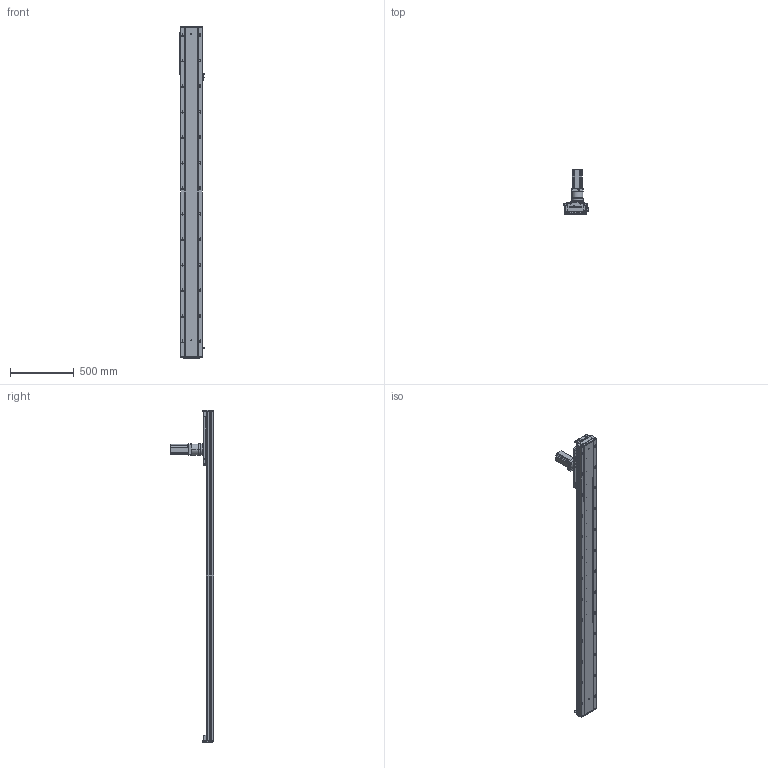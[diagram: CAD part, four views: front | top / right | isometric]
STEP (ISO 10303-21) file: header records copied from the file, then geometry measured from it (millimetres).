
FILE_DESCRIPTION (( 'STEP AP203' ), '1' );
FILE_NAME ('RY170-C-1000-UK.SLDASM_2100.step', '2021-03-03T00:47:14', ( '盈信电脑' ), ( '东莞市道滘镇水果街19号' ), 'SwSTEP 2.0', 'SolidWorks 2012', '' );
FILE_SCHEMA (( 'CONFIG_CONTROL_DESIGN' ));
Products named in the file (13): RY170-C-1000-UK.SLDASM_2100; RY170-喘沭賑輸; 左旋斜齿齿轮_M2_22齿_内孔20; RY170-喘沭滅袉蝶輸; 怢湛750W萇儂ㄗ80遺ㄘ; TF080等撰; RY170-喘謫萇儂覃誹啣; RY170外置感应片(200共用）; RY170-1000-喘沭耀郪絳寢EGH20CA_2100; 覜茼ん672; RY170綴裔啣ㄗ蜊秶ㄘ; 絳寢賑輸EGH20CA; RY170-1000齿条模组型材底座_2100
Assembly tree (22 placements, depth 2):
  RY170-C-1000-UK.SLDASM_2100
    RY170-1000齿条模组型材底座_2100
    絳寢賑輸EGH20CA  x6
    RY170-1000-喘沭耀郪絳寢EGH20CA_2100  x2
    RY170綴裔啣ㄗ蜊秶ㄘ  x2
    覜茼ん672  x3
    RY170外置感应片(200共用）
    RY170-喘謫萇儂覃誹啣
    怢湛750W萇儂ㄗ80遺ㄘ
    RY170-喘沭滅袉蝶輸  x2
    TF080等撰
    左旋斜齿齿轮_M2_22齿_内孔20
    RY170-喘沭賑輸
Bounding box: 188.7 x 343.5 x 2600 mm (x, y, z)
Volume: 13927907.8 mm3; surface area: 3497592.3 mm2
Topology: 24 solids, 24 shells, 4425 faces, 12398 edges, 7937 vertices
Faces by surface type: plane 2135, cylinder 1898, cone 338, bspline 50, torus 4
Entity records: 99318 total; most frequent: CARTESIAN_POINT 23267, ORIENTED_EDGE 15862, DIRECTION 15392, EDGE_CURVE 7931, AXIS2_PLACEMENT_3D 5683, VERTEX_POINT 5159, VECTOR 4026, LINE 4026
